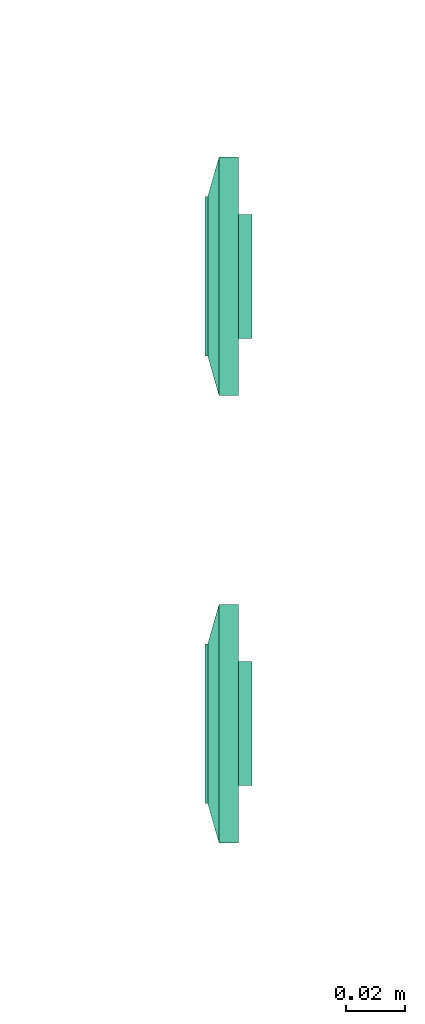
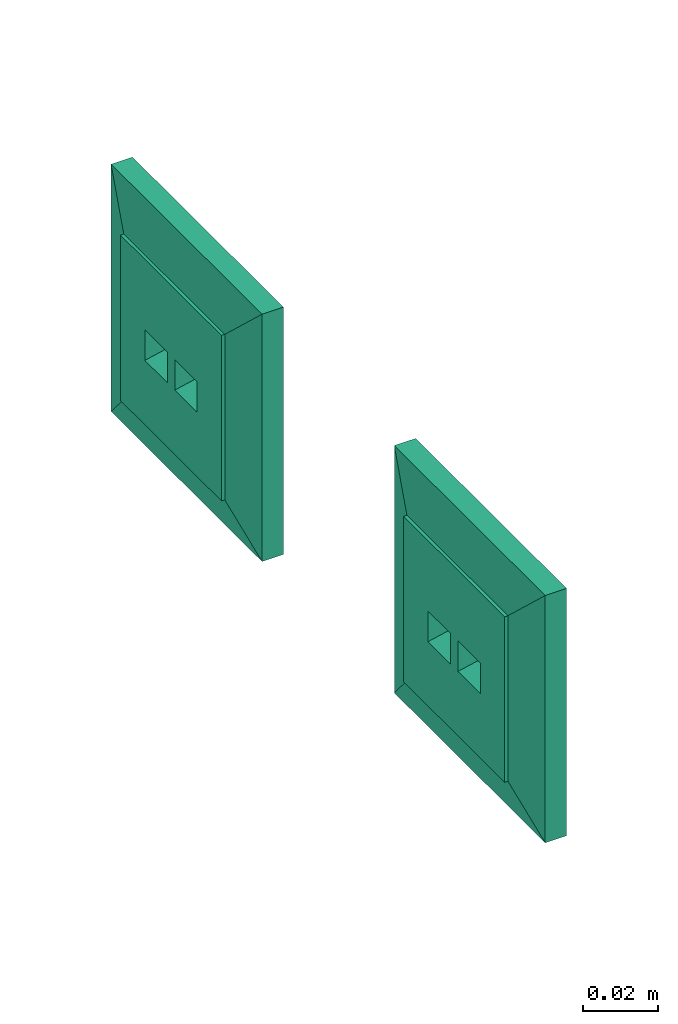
# One storey, part 97 of 146: 2 flow terminals.
"""IFC2X3 building model written with IfcOpenShell, lengths in metres."""

from ifc_helpers import new_model, entity, si_unit, converted_unit, derived_unit, direction, frame, origin, place, context, subcontext, project, spatial, faceted_brep, source, transform, mapped, type_object, type_shapes, element, save


model = new_model("IFC2X3")

# Units and contexts
model_context = context("Model", 3, precision=1e-05, world=origin(), true_north=direction((6.12303176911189e-17, 1.0)))
body_context = subcontext(model_context, "Body", "Model", "MODEL_VIEW")
ifc_project = project(units=[si_unit("LENGTHUNIT", "METRE"), si_unit("AREAUNIT", "SQUARE_METRE"), si_unit("VOLUMEUNIT", "CUBIC_METRE"), converted_unit("PLANEANGLEUNIT", "DEGREE", entity("IfcRatioMeasure", 0.0174532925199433), si_unit("PLANEANGLEUNIT", "RADIAN"), dimensions=[0, 0, 0, 0, 0, 0, 0]), si_unit("MASSUNIT", "GRAM", prefix="KILO"), derived_unit("MASSDENSITYUNIT", [(si_unit("MASSUNIT", "GRAM", prefix="KILO"), 1), (si_unit("LENGTHUNIT", "METRE"), -3)]), si_unit("TIMEUNIT", "SECOND"), si_unit("FREQUENCYUNIT", "HERTZ"), si_unit("THERMODYNAMICTEMPERATUREUNIT", "DEGREE_CELSIUS"), derived_unit("THERMALTRANSMITTANCEUNIT", [(si_unit("MASSUNIT", "GRAM", prefix="KILO"), 1), (si_unit("THERMODYNAMICTEMPERATUREUNIT", "KELVIN"), -1), (si_unit("TIMEUNIT", "SECOND"), -3)]), derived_unit("VOLUMETRICFLOWRATEUNIT", [(si_unit("LENGTHUNIT", "METRE"), 3), (si_unit("TIMEUNIT", "SECOND"), -1)]), si_unit("ELECTRICCURRENTUNIT", "AMPERE"), si_unit("ELECTRICVOLTAGEUNIT", "VOLT"), si_unit("POWERUNIT", "WATT"), si_unit("FORCEUNIT", "NEWTON"), si_unit("ILLUMINANCEUNIT", "LUX"), si_unit("LUMINOUSFLUXUNIT", "LUMEN"), si_unit("LUMINOUSINTENSITYUNIT", "CANDELA"), derived_unit("USERDEFINED", [(si_unit("MASSUNIT", "GRAM", prefix="KILO"), -1), (si_unit("LENGTHUNIT", "METRE"), -2), (si_unit("TIMEUNIT", "SECOND"), 3), (si_unit("LUMINOUSFLUXUNIT", "LUMEN"), 1)]), derived_unit("LINEARVELOCITYUNIT", [(si_unit("LENGTHUNIT", "METRE"), 1), (si_unit("TIMEUNIT", "SECOND"), -1)]), si_unit("PRESSUREUNIT", "PASCAL"), derived_unit("USERDEFINED", [(si_unit("LENGTHUNIT", "METRE"), -2), (si_unit("MASSUNIT", "GRAM", prefix="KILO"), 1), (si_unit("TIMEUNIT", "SECOND"), -2)])], contexts=[model_context])

# Site, building, storey
site_placement = place(None, origin())
site = spatial("IfcSite", under=ifc_project, at=site_placement, Name="Default", CompositionType="ELEMENT")
building_placement = place(site_placement, origin())
building = spatial("IfcBuilding", under=site, at=building_placement, CompositionType="ELEMENT")
storey_placement = place(building_placement, origin())
storey = spatial("IfcBuildingStorey", under=building, at=storey_placement, Name="S01", CompositionType="ELEMENT", Elevation=0.0)

# Flow terminals
electric_appliance_type = type_object("IfcElectricApplianceType", Name="RJ45 IP20", PredefinedType="NOTDEFINED")
shared_shape = source(origin(), body_context, "Body", "Brep", [
    faceted_brep([(0.00200000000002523, 0.0, 0.00799999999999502), (0.00400000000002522, 0.0, 0.00799999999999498), (0.00500000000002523, 0.00199999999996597, 0.00799999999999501), (0.0110000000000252, 0.00199999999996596, 0.00799999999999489), (0.0120000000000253, 0.0, 0.00799999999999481), (0.0140000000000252, 0.0, 0.00799999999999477), (0.0140000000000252, 0.00399999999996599, 0.00799999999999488), (0.00200000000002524, 0.00399999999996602, 0.00799999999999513), (0.00200000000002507, 0.0, 0.0), (0.00200000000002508, 0.00399999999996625, 0.0), (0.0140000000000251, 0.00399999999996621, 0.0), (0.0140000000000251, 0.0, 0.0), (0.0120000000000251, 0.0, 0.0), (0.0110000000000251, 0.00199999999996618, 0.0), (0.00500000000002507, 0.0019999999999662, 0.0), (0.00400000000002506, 0.0, 0.0)], [[[0, 1, 2, 3, 4, 5, 6, 7]], [[8, 9, 10, 11, 12, 13, 14, 15]], [[1, 0, 8, 15]], [[2, 1, 15, 14]], [[3, 2, 14, 13]], [[4, 3, 13, 12]], [[5, 4, 12, 11]], [[6, 5, 11, 10]], [[7, 6, 10, 9]], [[0, 7, 9, 8]]]),
    faceted_brep([(-0.0139999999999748, 0.0, 0.00799999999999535), (-0.0119999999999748, 0.0, 0.00799999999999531), (-0.0109999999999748, 0.00199999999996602, 0.00799999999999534), (-0.00499999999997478, 0.00199999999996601, 0.00799999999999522), (-0.0039999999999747, 0.0, 0.00799999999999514), (-0.00199999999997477, 0.0, 0.0079999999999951), (-0.00199999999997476, 0.00399999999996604, 0.00799999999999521), (-0.0139999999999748, 0.00399999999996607, 0.00799999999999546), (-0.0139999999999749, 0.0, 0.0), (-0.0139999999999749, 0.00399999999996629, 0.0), (-0.00199999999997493, 0.00399999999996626, 0.0), (-0.00199999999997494, 0.0, 0.0), (-0.00399999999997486, 0.0, 0.0), (-0.00499999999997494, 0.00199999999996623, 0.0), (-0.0109999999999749, 0.00199999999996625, 0.0), (-0.0119999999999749, 0.0, 0.0)], [[[0, 1, 2, 3, 4, 5, 6, 7]], [[8, 9, 10, 11, 12, 13, 14, 15]], [[1, 0, 8, 15]], [[2, 1, 15, 14]], [[3, 2, 14, 13]], [[4, 3, 13, 12]], [[5, 4, 12, 11]], [[6, 5, 11, 10]], [[7, 6, 10, 9]], [[0, 7, 9, 8]]]),
    faceted_brep([(0.0140000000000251, 0.00399999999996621, 0.0), (0.00200000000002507, 0.00399999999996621, 0.0), (0.00200000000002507, -0.00350000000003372, 0.0), (0.0140000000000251, -0.00350000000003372, 0.0), (0.0140000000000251, 0.00399999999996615, 0.00199999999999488), (0.00200000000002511, 0.00399999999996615, 0.00199999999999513), (0.00200000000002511, -0.00393859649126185, 0.00199999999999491), (0.0140000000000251, -0.00393859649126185, 0.00199999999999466), (0.0210000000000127, 0.0209999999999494, 0.00199999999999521), (-0.0209999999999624, 0.0209999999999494, 0.00199999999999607), (-0.0209999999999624, -0.0210000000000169, 0.00199999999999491), (0.0210000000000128, -0.0210000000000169, 0.00199999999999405), (-0.0139999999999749, 0.0039999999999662, 0.00199999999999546), (-0.0019999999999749, 0.0039999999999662, 0.00199999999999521), (-0.00199999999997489, -0.0039385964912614, 0.00199999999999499), (-0.0139999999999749, -0.00393859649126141, 0.00199999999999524), (0.0210000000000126, 0.0209999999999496, -0.00460000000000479), (0.0210000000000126, -0.0210000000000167, -0.00460000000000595), (-0.0209999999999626, -0.0210000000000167, -0.00460000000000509), (-0.0209999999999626, 0.0209999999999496, -0.00460000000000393), (-0.00199999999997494, 0.00399999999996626, 0.0), (-0.0139999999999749, 0.00399999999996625, 0.0), (-0.0139999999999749, -0.00350000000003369, 0.0), (-0.00199999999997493, -0.00350000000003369, 0.0)], [[[0, 1, 2, 3]], [[1, 0, 4, 5]], [[2, 1, 5, 6]], [[3, 2, 6, 7]], [[0, 3, 7, 4]], [[5, 4, 7, 6], [8, 9, 10, 11], [12, 13, 14, 15]], [[16, 17, 18, 19]], [[9, 8, 16, 19]], [[10, 9, 19, 18]], [[11, 10, 18, 17]], [[8, 11, 17, 16]], [[20, 21, 22, 23]], [[21, 20, 13, 12]], [[22, 21, 12, 15]], [[23, 22, 15, 14]], [[20, 23, 14, 13]]], outer=[[True], [True], [True], [True], [True], [False, True, False], [True], [True], [True], [True], [True], [True], [True], [True], [True], [True]]),
    faceted_brep([(0.0270000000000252, 0.026999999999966, 0.0113999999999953), (-0.0269999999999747, 0.026999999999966, 0.0113999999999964), (-0.0269999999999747, -0.0270000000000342, 0.0113999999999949), (0.0270000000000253, -0.0270000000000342, 0.0113999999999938), (0.0020000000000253, 0.00399999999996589, 0.0113999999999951), (0.0140000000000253, 0.00399999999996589, 0.0113999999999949), (0.0140000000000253, -0.00600000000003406, 0.0113999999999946), (0.0020000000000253, -0.00600000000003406, 0.0113999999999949), (-0.0139999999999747, 0.00399999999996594, 0.0113999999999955), (-0.00199999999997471, 0.00399999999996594, 0.0113999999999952), (-0.00199999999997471, -0.0060000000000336, 0.0113999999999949), (-0.0139999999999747, -0.00600000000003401, 0.0113999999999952), (0.0270000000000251, 0.0269999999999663, 0.00199999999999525), (0.0270000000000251, -0.0270000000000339, 0.00199999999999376), (-0.0269999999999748, -0.0270000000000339, 0.00199999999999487), (-0.0269999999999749, 0.0269999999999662, 0.00199999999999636), (0.0140000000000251, 0.00399999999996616, 0.00199999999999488), (0.00200000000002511, 0.00399999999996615, 0.00199999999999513), (0.00200000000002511, -0.00393859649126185, 0.00199999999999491), (0.0140000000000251, -0.00393859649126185, 0.00199999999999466), (-0.00199999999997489, 0.0039999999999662, 0.00199999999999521), (-0.0139999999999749, 0.0039999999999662, 0.00199999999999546), (-0.0139999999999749, -0.0039385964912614, 0.00199999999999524), (-0.00199999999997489, -0.0039385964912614, 0.00199999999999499)], [[[0, 1, 2, 3], [4, 5, 6, 7], [8, 9, 10, 11]], [[12, 13, 14, 15], [16, 17, 18, 19], [20, 21, 22, 23]], [[1, 0, 12, 15]], [[2, 1, 15, 14]], [[3, 2, 14, 13]], [[0, 3, 13, 12]], [[4, 17, 16, 5]], [[17, 4, 7, 18]], [[18, 7, 6, 19]], [[5, 16, 19, 6]], [[8, 21, 20, 9]], [[21, 8, 11, 22]], [[22, 11, 10, 23]], [[9, 20, 23, 10]]]),
    faceted_brep([(0.027000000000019, 0.0269999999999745, 0.00659999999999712), (-0.0269999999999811, 0.0269999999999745, 0.00659999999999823), (-0.026999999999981, -0.0270000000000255, 0.00659999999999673), (0.027000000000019, -0.0270000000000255, 0.00659999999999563), (0.040350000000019, 0.0403499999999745, 0.00659999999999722), (0.040350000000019, -0.0403500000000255, 0.00659999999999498), (-0.0403499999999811, -0.0403500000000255, 0.00659999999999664), (-0.0403499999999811, 0.0403499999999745, 0.00659999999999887), (-0.026999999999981, 0.0269999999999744, 0.0103999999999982), (0.027000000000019, 0.0269999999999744, 0.0103999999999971), (-0.026999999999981, -0.0270000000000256, 0.0103999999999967), (0.027000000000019, -0.0270000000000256, 0.0103999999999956)], [[[0, 1, 2, 3], [4, 5, 6, 7]], [[4, 7, 8, 9]], [[7, 6, 10, 8]], [[6, 5, 11, 10]], [[5, 4, 9, 11]], [[0, 9, 8, 1]], [[1, 8, 10, 2]], [[2, 10, 11, 3]], [[9, 0, 3, 11]]], outer=[[False, True], [True], [True], [True], [True], [True], [True], [True], [True]]),
    faceted_brep([(0.040350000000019, 0.0403499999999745, 0.00659999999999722), (-0.0403499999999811, 0.0403499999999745, 0.00659999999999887), (-0.0403499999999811, -0.0403500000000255, 0.00659999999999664), (0.040350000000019, -0.0403500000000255, 0.00659999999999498), (-0.0269999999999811, 0.0269999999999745, 0.00659999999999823), (0.0270000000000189, 0.0269999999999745, 0.00659999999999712), (0.0270000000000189, -0.0270000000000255, 0.00659999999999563), (-0.0269999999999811, -0.0270000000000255, 0.00659999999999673), (0.0403500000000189, 0.0403499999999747, 0.0), (0.0403500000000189, -0.0403500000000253, 0.0), (-0.0403499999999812, -0.0403500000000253, 0.0), (-0.0403499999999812, 0.0403499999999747, 0.0), (0.0270000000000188, 0.0269999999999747, 0.0), (-0.0269999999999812, 0.0269999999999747, 0.0), (-0.0269999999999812, -0.0270000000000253, 0.0), (0.0270000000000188, -0.0270000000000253, 0.0)], [[[0, 1, 2, 3], [4, 5, 6, 7]], [[8, 9, 10, 11], [12, 13, 14, 15]], [[1, 0, 8, 11]], [[2, 1, 11, 10]], [[3, 2, 10, 9]], [[0, 3, 9, 8]], [[12, 5, 4, 13]], [[13, 4, 7, 14]], [[14, 7, 6, 15]], [[5, 12, 15, 6]]]),
])
type_shapes(electric_appliance_type, [shared_shape])
for number, where, z_axis, x_axis in (
    (1, (69.5144377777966, -192.223379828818, 0.320000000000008), (-1.0, 0.0, 0.0), (0.0, -1.0, 0.0)),
    (2, (69.5144377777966, -192.072014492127, 0.320000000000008), (-1.0, 0.0, 0.0), (0.0, -1.0, 0.0)),
):
    element("IfcFlowTerminal", number, at=place(storey_placement, frame(where, z_axis=z_axis, x_axis=x_axis)), inside=storey, type_object=electric_appliance_type, Name="INT_Prise RJ45:RJ45 IP20", ObjectType="INT_Prise RJ45:RJ45 IP20", context=body_context, shape_type="MappedRepresentation", body=[
        mapped(shared_shape, transform((0.0, 0.0, 0.0), scale=1.0)),
    ])

save(model, "model.ifc")
